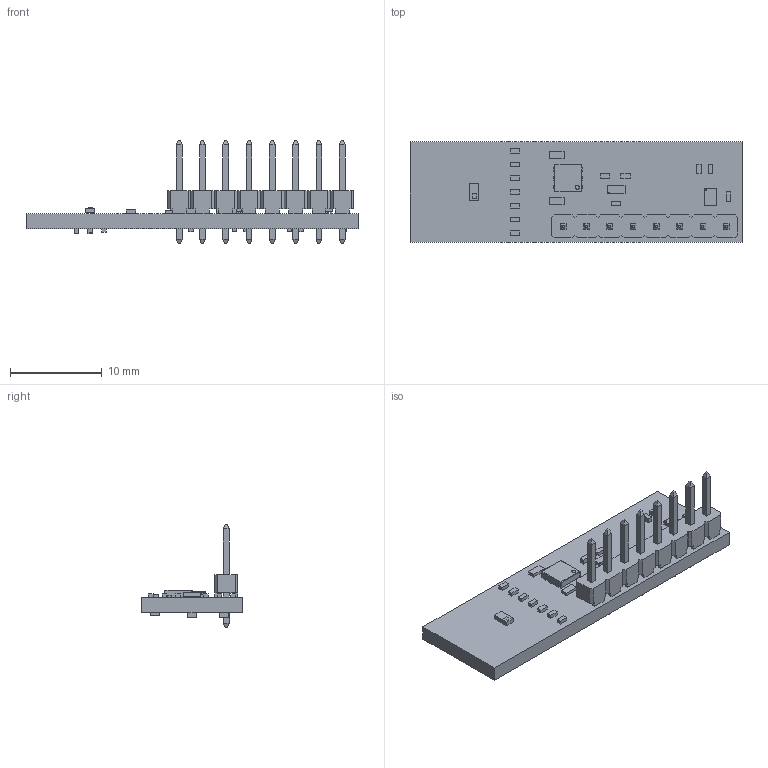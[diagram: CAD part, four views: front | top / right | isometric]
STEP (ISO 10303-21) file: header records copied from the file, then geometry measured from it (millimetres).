
FILE_DESCRIPTION(('Open CASCADE Model'),'2;1');
FILE_NAME('Open CASCADE Shape Model','2020-12-15T14:08:50',('Author'),( 'Open CASCADE'),'Open CASCADE STEP processor 6.8','Open CASCADE 6.8' ,'Unknown');
FILE_SCHEMA(('AUTOMOTIVE_DESIGN { 1 0 10303 214 1 1 1 1 }'));
Length unit declared in the file: millimetre
Products named in the file (60): PCB; Board; Open CASCADE STEP translator 6.8 8.1.1; U2; 6714289072; Array; Body; U3; 6319729904; R6; 6798386384; Extruded; J1; 961108-6404-XX; U4; 6795506640; U1; 7271938176; 7271935776; Sphere; 7271930496; R17; R16; 6798385504; R15; R14; R13; R12; R11; R10; 6798389504; R9; R8; R7; R5; R4; R3; R2; R1; C9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
Assembly tree (84 placements, depth 4):
  PCB
    Board
      Open CASCADE STEP translator 6.8 8.1.1
    U2
      6714289072
        Array
        Body
    U3
      6319729904
        Array
        Body
    R6
      6798386384
        Extruded
    J1
      961108-6404-XX
    U4
      6795506640
    U1
      7271938176
        Extruded
      7271935776  x6
        Sphere
      7271930496
        Extruded
    R17
      6798386384
        Extruded
    R16
      6798385504
        Extruded
    R15
      6798385504
        Extruded
    R14
      6798385504
        Extruded
    R13
      6798385504
        Extruded
    R12
      6798385504
        Extruded
    R11
      6798385504
        Extruded
    R10
      6798389504
        Extruded
    R9
      6798389504
        Extruded
    R8
      6798386384
        Extruded
    R7
      6798386384
        Extruded
    R5
      6798386384
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Bounding box: 36.2 x 11 x 11.3 mm (x, y, z)
Volume: 803.2 mm3; surface area: 1465 mm2
Topology: 59 solids, 59 shells, 557 faces, 1341 edges, 866 vertices
Faces by surface type: plane 515, sphere 26, cylinder 10, bspline 6
Full cylindrical faces by diameter (mm): 0.111 x1, 0.17 x1
Entity records: 14237 total; most frequent: CARTESIAN_POINT 2319, DIRECTION 2063, ORIENTED_EDGE 2038, EDGE_CURVE 1019, LINE 993, VECTOR 993, VERTEX_POINT 675, AXIS2_PLACEMENT_3D 535
